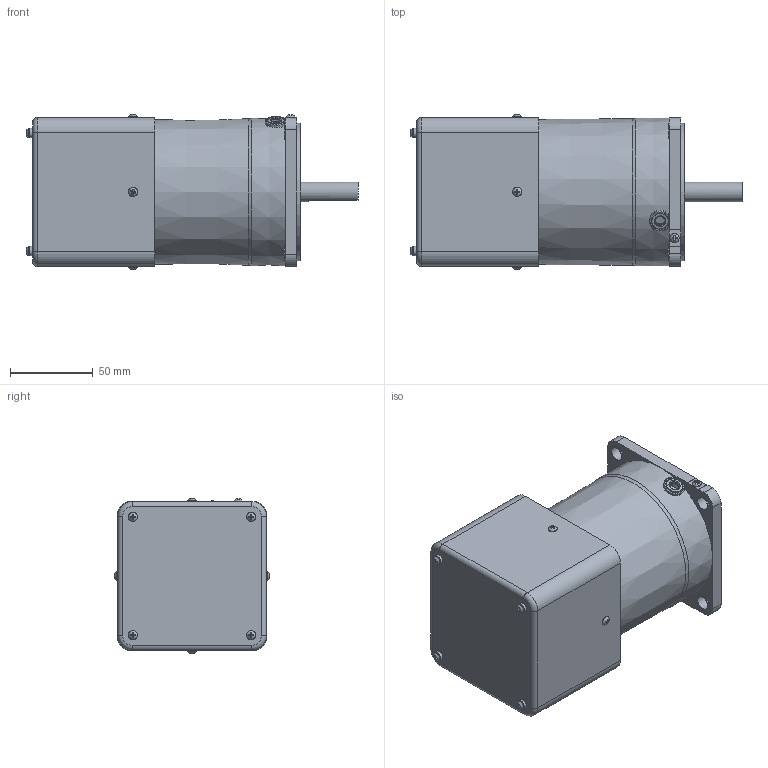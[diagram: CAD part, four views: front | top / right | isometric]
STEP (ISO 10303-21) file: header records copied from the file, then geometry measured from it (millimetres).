
FILE_DESCRIPTION(/* description */ (''),/* implementation_level */ '2;1');
FILE_NAME(/* name */ 'E:\도면작업\2016\0704) 미주향 SG 도면\3D MOTOR\SPEED CONTROL TYPE\SG9I60D_-S12(24).stp',/* time_stamp */ '2017-08-21T11:12:05+09:00',/* author */ ('jy-jung'),/* organization */ (''),/* preprocessor_version */ 'ST-DEVELOPER v15.6',/* originating_system */ 'Autodesk Inventor 2015',/* authorisation */ '');
FILE_SCHEMA (('AUTOMOTIVE_DESIGN { 1 0 10303 214 3 1 1 }'));
Length unit declared in the file: millimetre
Products named in the file (1): 부품27
Bounding box: 200.75 x 93.89 x 93.89 mm (x, y, z)
Volume: 874532 mm3; surface area: 101210.8 mm2
Topology: 1 solids, 7 shells, 309 faces, 757 edges, 491 vertices
Faces by surface type: plane 194, cylinder 72, torus 27, bspline 9, cone 7
Full cylindrical faces by diameter (mm): 3 x8, 4.5 x4, 5.6 x13, 6 x1, 8.5 x4, 9.5 x4, 10 x1, 12 x1, 40 x1, 83 x1
Entity records: 9684 total; most frequent: CARTESIAN_POINT 2451, ORIENTED_EDGE 1376, DIRECTION 1348, EDGE_CURVE 688, AXIS2_PLACEMENT_3D 493, VERTEX_POINT 486, EDGE_LOOP 420, LINE 362
